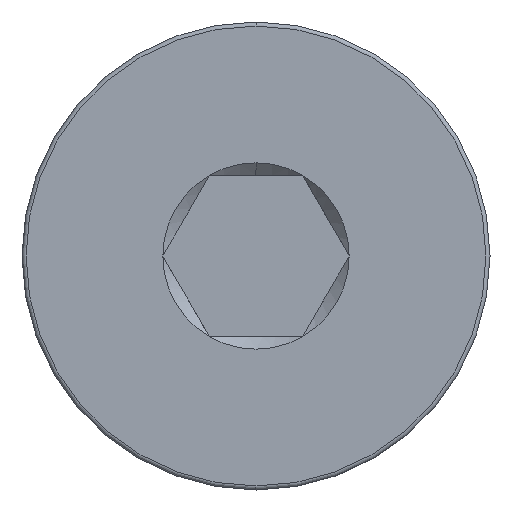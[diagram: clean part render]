
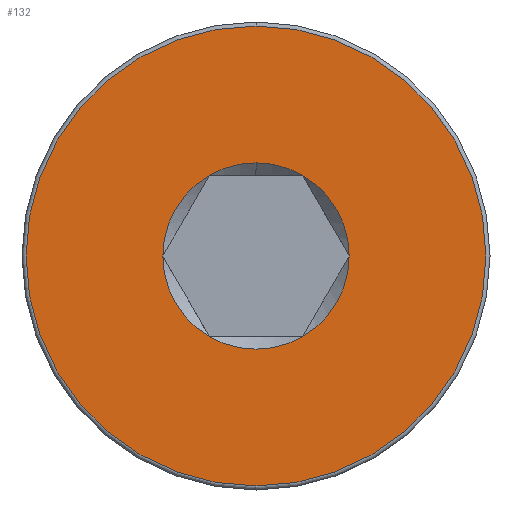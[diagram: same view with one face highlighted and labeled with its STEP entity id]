
A CAD part, left-side view. The second image highlights one B-rep face of the part: STEP entity #132.
In plain terms, the highlighted planar face has unit normal (-1, 0, 0).
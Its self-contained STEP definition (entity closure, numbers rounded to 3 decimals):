
#1 = CARTESIAN_POINT ( 'NONE',  ( 0., 0., 0. ) ) ;
#3 = EDGE_CURVE ( 'NONE', #338, #74, #342, .T. ) ;
#26 = CARTESIAN_POINT ( 'NONE',  ( 0., 0., 0. ) ) ;
#31 = VERTEX_POINT ( 'NONE', #382 ) ;
#55 = DIRECTION ( 'NONE',  ( -1., 0., 0. ) ) ;
#73 = DIRECTION ( 'NONE',  ( 1., 0., 0. ) ) ;
#74 = VERTEX_POINT ( 'NONE', #271 ) ;
#93 = VERTEX_POINT ( 'NONE', #385 ) ;
#99 = CARTESIAN_POINT ( 'NONE',  ( 0., 0., 0. ) ) ;
#106 = AXIS2_PLACEMENT_3D ( 'NONE', #220, #571, #689 ) ;
#109 = VERTEX_POINT ( 'NONE', #454 ) ;
#111 = EDGE_CURVE ( 'NONE', #465, #361, #400, .T. ) ;
#118 = DIRECTION ( 'NONE',  ( 0., 0., 1. ) ) ;
#119 = AXIS2_PLACEMENT_3D ( 'NONE', #99, #171, #581 ) ;
#121 = EDGE_CURVE ( 'NONE', #561, #162, #719, .T. ) ;
#124 = DIRECTION ( 'NONE',  ( -1., 0., 0. ) ) ;
#132 = ADVANCED_FACE ( 'NONE', ( #475, #192 ), #440, .T. ) ;
#141 = DIRECTION ( 'NONE',  ( 0., 0., -1. ) ) ;
#144 = DIRECTION ( 'NONE',  ( 0., 0., -1. ) ) ;
#157 = DIRECTION ( 'NONE',  ( 1., 0., 0. ) ) ;
#160 = AXIS2_PLACEMENT_3D ( 'NONE', #199, #55, #671 ) ;
#162 = VERTEX_POINT ( 'NONE', #423 ) ;
#171 = DIRECTION ( 'NONE',  ( 1., 0., 0. ) ) ;
#175 = DIRECTION ( 'NONE',  ( 1., 0., 0. ) ) ;
#192 = FACE_BOUND ( 'NONE', #216, .T. ) ;
#199 = CARTESIAN_POINT ( 'NONE',  ( 0., 0., 0. ) ) ;
#216 = EDGE_LOOP ( 'NONE', ( #570, #286, #254, #769, #782, #456, #765 ) ) ;
#217 = EDGE_CURVE ( 'NONE', #162, #561, #479, .T. ) ;
#220 = CARTESIAN_POINT ( 'NONE',  ( 0., 0., 0. ) ) ;
#253 = EDGE_CURVE ( 'NONE', #361, #338, #543, .T. ) ;
#254 = ORIENTED_EDGE ( 'NONE', *, *, #111, .T. ) ;
#270 = CARTESIAN_POINT ( 'NONE',  ( 0., 0., 0. ) ) ;
#271 = CARTESIAN_POINT ( 'NONE',  ( 0., -0.577, -1. ) ) ;
#286 = ORIENTED_EDGE ( 'NONE', *, *, #350, .T. ) ;
#287 = DIRECTION ( 'NONE',  ( 0., 0., -1. ) ) ;
#289 = EDGE_LOOP ( 'NONE', ( #463, #724 ) ) ;
#310 = EDGE_CURVE ( 'NONE', #74, #93, #508, .T. ) ;
#315 = DIRECTION ( 'NONE',  ( -1., 0., 0. ) ) ;
#322 = DIRECTION ( 'NONE',  ( 0., 0., -1. ) ) ;
#338 = VERTEX_POINT ( 'NONE', #738 ) ;
#342 = CIRCLE ( 'NONE', #705, 1.155 ) ;
#350 = EDGE_CURVE ( 'NONE', #109, #465, #634, .T. ) ;
#355 = CARTESIAN_POINT ( 'NONE',  ( 0., 0., 1.155 ) ) ;
#361 = VERTEX_POINT ( 'NONE', #502 ) ;
#381 = EDGE_CURVE ( 'NONE', #93, #31, #594, .T. ) ;
#382 = CARTESIAN_POINT ( 'NONE',  ( 0., 1.155, 0. ) ) ;
#385 = CARTESIAN_POINT ( 'NONE',  ( 0., 0.577, -1. ) ) ;
#400 = CIRCLE ( 'NONE', #492, 1.155 ) ;
#423 = CARTESIAN_POINT ( 'NONE',  ( 0., 0., -2.85 ) ) ;
#428 = AXIS2_PLACEMENT_3D ( 'NONE', #647, #175, #287 ) ;
#432 = CARTESIAN_POINT ( 'NONE',  ( 0., 0., 0. ) ) ;
#435 = EDGE_CURVE ( 'NONE', #31, #109, #510, .T. ) ;
#440 = PLANE ( 'NONE',  #695 ) ;
#454 = CARTESIAN_POINT ( 'NONE',  ( 0., 0.577, 1. ) ) ;
#456 = ORIENTED_EDGE ( 'NONE', *, *, #310, .T. ) ;
#457 = DIRECTION ( 'NONE',  ( 1., 0., 0. ) ) ;
#463 = ORIENTED_EDGE ( 'NONE', *, *, #121, .T. ) ;
#465 = VERTEX_POINT ( 'NONE', #355 ) ;
#475 = FACE_OUTER_BOUND ( 'NONE', #289, .T. ) ;
#477 = CARTESIAN_POINT ( 'NONE',  ( 0., 0., 2.85 ) ) ;
#479 = CIRCLE ( 'NONE', #583, 2.85 ) ;
#492 = AXIS2_PLACEMENT_3D ( 'NONE', #614, #73, #322 ) ;
#499 = CARTESIAN_POINT ( 'NONE',  ( 0., 0., 0. ) ) ;
#502 = CARTESIAN_POINT ( 'NONE',  ( 0., -0.577, 1. ) ) ;
#508 = CIRCLE ( 'NONE', #707, 1.155 ) ;
#510 = CIRCLE ( 'NONE', #428, 1.155 ) ;
#543 = CIRCLE ( 'NONE', #106, 1.155 ) ;
#549 = DIRECTION ( 'NONE',  ( 1., 0., 0. ) ) ;
#561 = VERTEX_POINT ( 'NONE', #477 ) ;
#570 = ORIENTED_EDGE ( 'NONE', *, *, #435, .T. ) ;
#571 = DIRECTION ( 'NONE',  ( 1., 0., 0. ) ) ;
#581 = DIRECTION ( 'NONE',  ( 0., 0., -1. ) ) ;
#583 = AXIS2_PLACEMENT_3D ( 'NONE', #1, #315, #727 ) ;
#594 = CIRCLE ( 'NONE', #119, 1.155 ) ;
#614 = CARTESIAN_POINT ( 'NONE',  ( 0., 0., 0. ) ) ;
#617 = DIRECTION ( 'NONE',  ( 0., 0., -1. ) ) ;
#634 = CIRCLE ( 'NONE', #733, 1.155 ) ;
#647 = CARTESIAN_POINT ( 'NONE',  ( 0., 0., 0. ) ) ;
#671 = DIRECTION ( 'NONE',  ( 0., 0., 1. ) ) ;
#689 = DIRECTION ( 'NONE',  ( 0., 0., -1. ) ) ;
#695 = AXIS2_PLACEMENT_3D ( 'NONE', #432, #124, #118 ) ;
#705 = AXIS2_PLACEMENT_3D ( 'NONE', #499, #549, #617 ) ;
#707 = AXIS2_PLACEMENT_3D ( 'NONE', #26, #457, #141 ) ;
#719 = CIRCLE ( 'NONE', #160, 2.85 ) ;
#724 = ORIENTED_EDGE ( 'NONE', *, *, #217, .T. ) ;
#727 = DIRECTION ( 'NONE',  ( 0., 0., 1. ) ) ;
#733 = AXIS2_PLACEMENT_3D ( 'NONE', #270, #157, #144 ) ;
#738 = CARTESIAN_POINT ( 'NONE',  ( 0., -1.155, 0. ) ) ;
#765 = ORIENTED_EDGE ( 'NONE', *, *, #381, .T. ) ;
#769 = ORIENTED_EDGE ( 'NONE', *, *, #253, .T. ) ;
#782 = ORIENTED_EDGE ( 'NONE', *, *, #3, .T. ) ;
